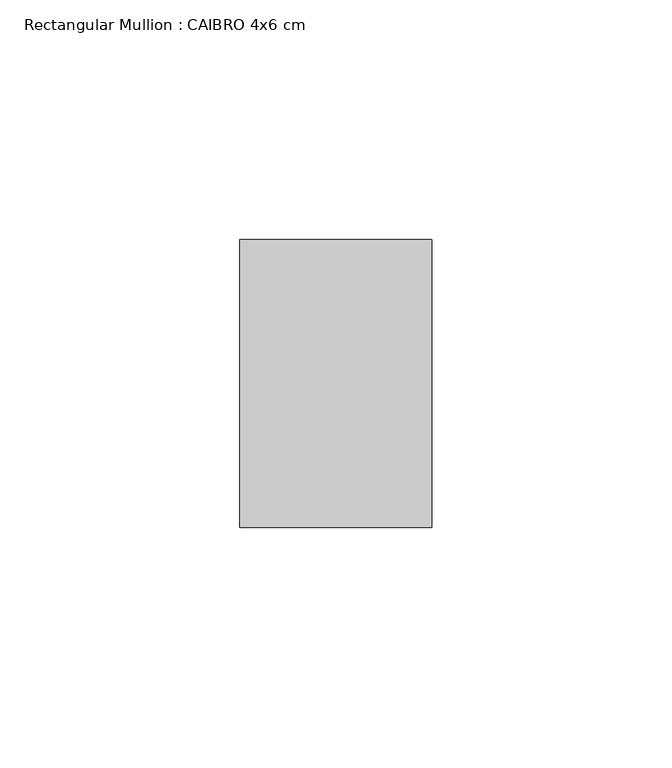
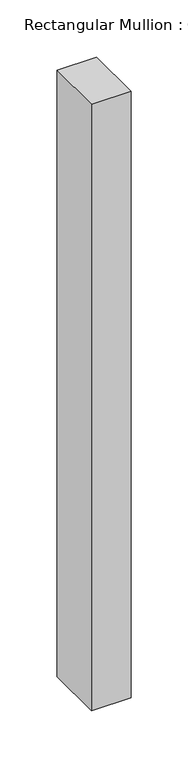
"""IFC4 building model written with IfcOpenShell, lengths in millimetres: member geometry, Rectangular Mullion : CAIBRO 4x6 cm."""

import ifcopenshell
import ifcopenshell.guid

model = None  # the IFC model being written
_history = None  # IfcOwnerHistory: only IFC2X3 demands one
_inside = {}  # id of a spatial element -> (the spatial element, [elements in it])
_under = {}  # id of a project, library or spatial element -> (it, [spatial elements below it])
_declared = {}  # id of a project -> (the project, [libraries it declares])
_typed = {}  # id of a type object -> (the type object, [elements of that type])
_made_of = {}  # id of a material, layer set ... -> (it, [elements and type objects made of it])


def new_model(schema):
    """Start an empty IFC model of exactly this schema.

    Asked for "IFC4X3", IfcOpenShell would pick the latest addendum, in which some entities
    have other attributes; the version numbers below select the first issue.
    IFC2X3 requires an IfcOwnerHistory on every rooted entity: one is made here for all.
    """
    global model, _history
    if schema == "IFC4X3":
        model = ifcopenshell.file(schema_version=(4, 3, 0, 0))
    else:
        model = ifcopenshell.file(schema=schema)
    _inside.clear()
    _under.clear()
    _declared.clear()
    _typed.clear()
    _made_of.clear()
    _history = None
    if model.schema == "IFC2X3":
        org = make("IfcOrganization", Name="unknown")
        user = make(
            "IfcPersonAndOrganization",
            ThePerson=make("IfcPerson", FamilyName="unknown"),
            TheOrganization=org,
        )
        app = make(
            "IfcApplication",
            ApplicationDeveloper=org,
            Version="unknown",
            ApplicationFullName="unknown",
            ApplicationIdentifier="unknown",
        )
        _history = make(
            "IfcOwnerHistory",
            OwningUser=user,
            OwningApplication=app,
            ChangeAction="ADDED",
            CreationDate=0,
        )
    return model


def make(cls, **values):
    """One entity of the class cls with the attributes given. An attribute that is None is left unset."""
    return model.create_entity(
        cls, **{name: value for name, value in values.items() if value is not None}
    )


def rooted(cls, **values):
    """An entity with a GlobalId (a new one), such as an element, a storey or a relation."""
    return make(cls, GlobalId=ifcopenshell.guid.new(), OwnerHistory=_history, **values)


def si_unit(unit_type, name, prefix=None):
    """IfcSIUnit, for example si_unit("LENGTHUNIT", "METRE", prefix="MILLI")."""
    return make("IfcSIUnit", UnitType=unit_type, Prefix=prefix, Name=name)


def assignment(units):
    """IfcUnitAssignment: the units of a project."""
    return None if units is None else make("IfcUnitAssignment", Units=units)


def point(xyz):
    """IfcCartesianPoint."""
    return None if xyz is None else make("IfcCartesianPoint", Coordinates=xyz)


def direction(xyz):
    """IfcDirection."""
    return None if xyz is None else make("IfcDirection", DirectionRatios=xyz)


def frame(location, z_axis=None, x_axis=None):
    """IfcAxis2Placement3D, a coordinate frame: its origin and axes. An axis left out is left unset."""
    return make(
        "IfcAxis2Placement3D",
        Location=point(location),
        Axis=direction(z_axis),
        RefDirection=direction(x_axis),
    )


def origin():
    """The frame at (0, 0, 0) with its axes left unset."""
    return frame((0.0, 0.0, 0.0))


def place(relative_to, where):
    """IfcLocalPlacement: puts the frame where relative to a parent placement (None: the world)."""
    return make(
        "IfcLocalPlacement", PlacementRelTo=relative_to, RelativePlacement=where
    )


def context(
    kind, dimensions, precision=None, world=None, true_north=None, identifier=None
):
    """IfcGeometricRepresentationContext, for example the 3D "Model" context."""
    return make(
        "IfcGeometricRepresentationContext",
        ContextIdentifier=identifier,
        ContextType=kind,
        CoordinateSpaceDimension=dimensions,
        Precision=precision,
        WorldCoordinateSystem=world,
        TrueNorth=true_north,
    )


def project(units=None, contexts=None):
    """IfcProject with its units and contexts."""
    return rooted(
        "IfcProject",
        Name="project",
        RepresentationContexts=contexts,
        UnitsInContext=assignment(units),
    )


def spatial(cls, under=None, at=None, **own):
    """A site, building, storey or space (cls), placed at a placement, below another one or the project."""
    s = rooted(cls, ObjectPlacement=at, **own)
    if under is not None:
        _under.setdefault(under.id(), (under, []))[1].append(s)
    return s


def polyline(points):
    """IfcPolyline through the points."""
    return make("IfcPolyline", Points=[point(p) for p in points])


def outline(outer, holes=None, kind="AREA"):
    """IfcArbitraryClosedProfileDef: a profile drawn as a closed curve; with holes, ...WithVoids."""
    if holes is None:
        return make("IfcArbitraryClosedProfileDef", ProfileType=kind, OuterCurve=outer)
    return make(
        "IfcArbitraryProfileDefWithVoids",
        ProfileType=kind,
        OuterCurve=outer,
        InnerCurves=holes,
    )


def extrude(swept, where, along, depth):
    """IfcExtrudedAreaSolid: the profile swept, set in the frame where, extruded along a direction by depth."""
    return make(
        "IfcExtrudedAreaSolid",
        SweptArea=swept,
        Position=where,
        ExtrudedDirection=direction(along),
        Depth=depth,
    )


def shape(context_of_items, identifier, shape_type, items):
    """IfcShapeRepresentation: the items that make up one representation, for example the "Body"."""
    return make(
        "IfcShapeRepresentation",
        ContextOfItems=context_of_items,
        RepresentationIdentifier=identifier,
        RepresentationType=shape_type,
        Items=items,
    )


def source(mapping_origin, context_of_items, identifier, shape_type, items):
    """IfcRepresentationMap: a shape defined once, which mapped items show again and again."""
    return make(
        "IfcRepresentationMap",
        MappingOrigin=mapping_origin,
        MappedRepresentation=shape(context_of_items, identifier, shape_type, items),
    )


def transform(
    local_origin,
    x_axis=None,
    y_axis=None,
    z_axis=None,
    scale=None,
    scale2=None,
    scale3=None,
    uniform=True,
):
    """IfcCartesianTransformationOperator3D, or its non-uniform kind. x_axis, y_axis, z_axis: its Axis1, 2, 3."""
    if uniform:
        return make(
            "IfcCartesianTransformationOperator3D",
            Axis1=direction(x_axis),
            Axis2=direction(y_axis),
            LocalOrigin=point(local_origin),
            Scale=scale,
            Axis3=direction(z_axis),
        )
    return make(
        "IfcCartesianTransformationOperator3DnonUniform",
        Axis1=direction(x_axis),
        Axis2=direction(y_axis),
        LocalOrigin=point(local_origin),
        Scale=scale,
        Axis3=direction(z_axis),
        Scale2=scale2,
        Scale3=scale3,
    )


def mapped(mapping_source, mapping_target):
    """IfcMappedItem: shows the shape of a source again, moved by a transform."""
    return make(
        "IfcMappedItem", MappingSource=mapping_source, MappingTarget=mapping_target
    )


def made_of(thing, what):
    """Note that an element or type object is made of a material, layer set ...; save() writes the relation."""
    if what is not None:
        _made_of.setdefault(what.id(), (what, []))[1].append(thing)
    return thing


def element(
    cls,
    number,
    at=None,
    inside=None,
    cuts=None,
    type_object=None,
    material=None,
    context=None,
    identifier="Body",
    shape_type=None,
    held_by="IfcProductDefinitionShape",
    body=None,
    shapes=None,
    **own,
):
    """One element of the class cls, such as IfcWall. Its Tag is "e" and its number.

    at: its placement. inside: the storey or other place that contains it. cuts: it is an
    opening in that element (IfcRelVoidsElement). A single representation is given by context,
    identifier, shape_type and body (its items); several are given by shapes. held_by: the class
    of the entity that holds the representations. save() writes the other relations.
    """
    e = rooted(cls, Tag="e%d" % number, ObjectPlacement=at, **own)
    if body is not None:
        shapes = [shape(context, identifier, shape_type, body)]
    if shapes is not None:
        e.Representation = make(held_by, Representations=shapes)
    if inside is not None:
        _inside.setdefault(inside.id(), (inside, []))[1].append(e)
    if cuts is not None:
        rooted(
            "IfcRelVoidsElement", RelatingBuildingElement=cuts, RelatedOpeningElement=e
        )
    if type_object is not None:
        _typed.setdefault(type_object.id(), (type_object, []))[1].append(e)
    return made_of(e, material)


def aggregate(whole, parts):
    """IfcRelAggregates: a whole, such as a stair, and the parts it consists of."""
    return rooted("IfcRelAggregates", RelatingObject=whole, RelatedObjects=parts)


def save(model, path):
    """Write the relations noted so far, then the file.

    IfcRelAggregates (storeys below a building ...), IfcRelContainedInSpatialStructure (elements
    in a storey), IfcRelDefinesByType, IfcRelAssociatesMaterial and IfcRelDeclares: one each for
    every whole, place, type object, material and project.
    """
    for whole, parts in _under.values():
        aggregate(whole, parts)
    for where, things in _inside.values():
        rooted(
            "IfcRelContainedInSpatialStructure",
            RelatedElements=things,
            RelatingStructure=where,
        )
    for kind, things in _typed.values():
        rooted("IfcRelDefinesByType", RelatedObjects=things, RelatingType=kind)
    for what, things in _made_of.values():
        rooted("IfcRelAssociatesMaterial", RelatedObjects=things, RelatingMaterial=what)
    for by, libraries in _declared.values():
        rooted("IfcRelDeclares", RelatingContext=by, RelatedDefinitions=libraries)
    model.write(path)


def rectangular_mullion_caibro_4x6_cm_c149d7fa(model_context):
    return source(origin(), model_context, "Body", "SweptSolid", [
        extrude(outline(polyline([(0.0, 60.0), (0.0, 0.0), (-40.0, 0.0), (-40.0, 60.0), (0.0, 60.0)])), frame((0.0, 0.0, -646.9484285), z_axis=(0.0, 0.0, 1.0), x_axis=(1.0, 0.0, 0.0)), (0.0, 0.0, 1.0), 646.9484285),
    ])


if __name__ == "__main__":
    model = new_model("IFC4")
    model_context = context("Model", 3, world=origin())
    ifc_project = project(units=[si_unit("LENGTHUNIT", "METRE", prefix="MILLI")], contexts=[model_context])
    site = spatial("IfcSite", under=ifc_project)
    building = spatial("IfcBuilding", under=site)
    placement = place(None, origin())
    rectangular_mullion_caibro_4x6_cm_shape = rectangular_mullion_caibro_4x6_cm_c149d7fa(model_context)
    element("IfcMember", 1, ObjectType="Rectangular Mullion : CAIBRO 4x6 cm", at=placement, inside=building, context=model_context, shape_type="MappedRepresentation", body=[
        mapped(rectangular_mullion_caibro_4x6_cm_shape, transform((0.0, 0.0, 0.0), x_axis=(1.0, 0.0, 0.0), y_axis=(0.0, 1.0, 0.0), z_axis=(0.0, 0.0, 1.0))),
    ])
    save(model, "model.ifc")
